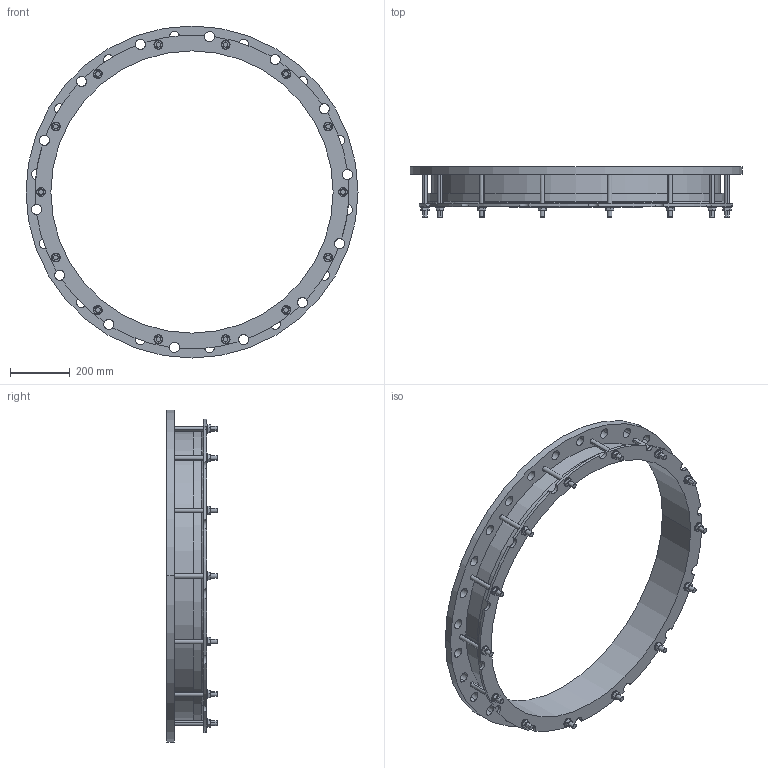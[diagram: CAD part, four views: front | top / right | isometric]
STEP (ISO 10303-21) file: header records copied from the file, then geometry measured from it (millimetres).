
FILE_DESCRIPTION((''),'2;1');
FILE_NAME('945X900PN10_14NOT','2019-01-17T',('mfairey'),('Glynwed Pipe Systems'),'CREO PARAMETRIC BY PTC INC, 2016130','CREO PARAMETRIC BY PTC INC, 2016130','');
FILE_SCHEMA(('CONFIG_CONTROL_DESIGN'));
Length unit declared in the file: millimetre
Products named in the file (1): 945X900PN10_14NOT
Bounding box: 1115 x 169 x 1115 mm (x, y, z)
Volume: 12840822.1 mm3; surface area: 1722784.8 mm2
Topology: 1 solids, 1 shells, 310 faces, 832 edges, 554 vertices
Faces by surface type: cylinder 174, plane 130, cone 4, torus 2
Entity records: 11512 total; most frequent: CARTESIAN_POINT 3338, DIRECTION 1706, ORIENTED_EDGE 1664, EDGE_CURVE 832, AXIS2_PLACEMENT_3D 638, VERTEX_POINT 554, VECTOR 430, LINE 430
